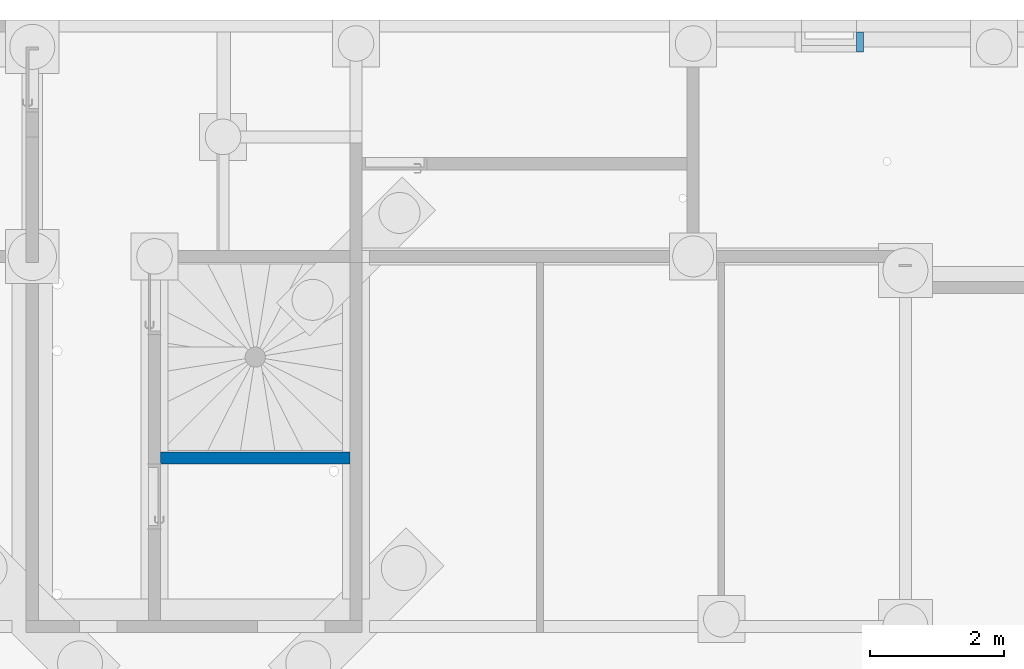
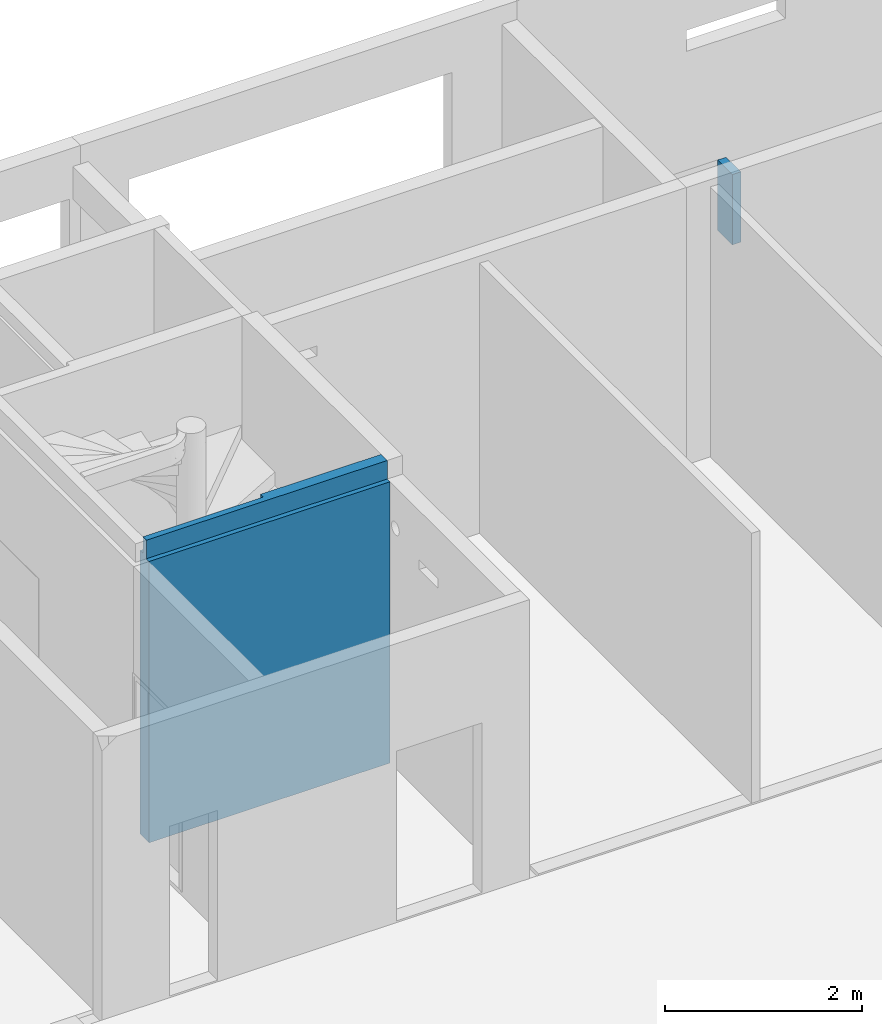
# One storey, part 8 of 29: 2 walls.
"""IFC2X3 building model written with IfcOpenShell, lengths in centimetres."""

from ifc_helpers import new_model, entity, si_unit, converted_unit, derived_unit, direction, frame, frame_2d, origin, place, context, subcontext, project, spatial, rectangle, extrude, faceted_brep, material, layer, layer_set, layer_usage, type_object, element, save


model = new_model("IFC2X3")

# Units and contexts
model_context = context("Model", 3, precision=0.001, world=origin(), true_north=direction((6.12303176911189e-17, 1.0)))
body_context = subcontext(model_context, "Body", "Model", "MODEL_VIEW")
ifc_project = project(units=[si_unit("LENGTHUNIT", "METRE", prefix="CENTI"), si_unit("AREAUNIT", "SQUARE_METRE"), si_unit("VOLUMEUNIT", "CUBIC_METRE"), converted_unit("PLANEANGLEUNIT", "DEGREE", entity("IfcRatioMeasure", 0.0174532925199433), si_unit("PLANEANGLEUNIT", "RADIAN"), dimensions=[0, 0, 0, 0, 0, 0, 0]), si_unit("MASSUNIT", "GRAM", prefix="KILO"), derived_unit("MASSDENSITYUNIT", [(si_unit("MASSUNIT", "GRAM", prefix="KILO"), 1), (si_unit("LENGTHUNIT", "METRE"), -3)]), si_unit("TIMEUNIT", "SECOND"), si_unit("FREQUENCYUNIT", "HERTZ"), si_unit("THERMODYNAMICTEMPERATUREUNIT", "DEGREE_CELSIUS"), derived_unit("THERMALTRANSMITTANCEUNIT", [(si_unit("MASSUNIT", "GRAM", prefix="KILO"), 1), (si_unit("THERMODYNAMICTEMPERATUREUNIT", "KELVIN"), -1), (si_unit("TIMEUNIT", "SECOND"), -3)]), derived_unit("VOLUMETRICFLOWRATEUNIT", [(si_unit("LENGTHUNIT", "METRE"), 3), (si_unit("TIMEUNIT", "SECOND"), -1)]), si_unit("ELECTRICCURRENTUNIT", "AMPERE"), si_unit("ELECTRICVOLTAGEUNIT", "VOLT"), si_unit("POWERUNIT", "WATT"), si_unit("FORCEUNIT", "NEWTON"), si_unit("ILLUMINANCEUNIT", "LUX"), si_unit("LUMINOUSFLUXUNIT", "LUMEN"), si_unit("LUMINOUSINTENSITYUNIT", "CANDELA"), derived_unit("USERDEFINED", [(si_unit("MASSUNIT", "GRAM", prefix="KILO"), -1), (si_unit("LENGTHUNIT", "METRE"), -2), (si_unit("TIMEUNIT", "SECOND"), 3), (si_unit("LUMINOUSFLUXUNIT", "LUMEN"), 1)]), derived_unit("LINEARVELOCITYUNIT", [(si_unit("LENGTHUNIT", "METRE"), 1), (si_unit("TIMEUNIT", "SECOND"), -1)]), si_unit("PRESSUREUNIT", "PASCAL"), derived_unit("USERDEFINED", [(si_unit("LENGTHUNIT", "METRE"), -2), (si_unit("MASSUNIT", "GRAM", prefix="KILO"), 1), (si_unit("TIMEUNIT", "SECOND"), -2)])], contexts=[model_context])

# Site, building, storey
site_placement = place(None, origin())
site = spatial("IfcSite", under=ifc_project, at=site_placement, Name="Default", CompositionType="ELEMENT")
building_placement = place(site_placement, origin())
building = spatial("IfcBuilding", under=site, at=building_placement, Name="CAGE 03", CompositionType="ELEMENT")
storey_placement = place(building_placement, frame((0.0, 0.0, -26.0)))
storey = spatial("IfcBuildingStorey", under=building, at=storey_placement, Name="+3.74", CompositionType="ELEMENT", Elevation=-26.0000000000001)

# Walls
ifc_material_1 = material(Name="Béton, C25/30")
ifc_layer_1 = layer(ifc_material_1, 18.0)
ifc_layer_set_1 = layer_set([ifc_layer_1], Name="Mur de base:Voile BA 18")
wall_type_1 = type_object("IfcWallType", Name="Mur de base:Voile BA 18", PredefinedType="STANDARD", material=ifc_layer_set_1)
wall_1_placement = place(storey_placement, frame((7031.36582014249, 4641.6606660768, -5.0)))
element("IfcWall", 1, at=wall_1_placement, inside=storey, type_object=wall_type_1, Name="Mur de base:Voile BA 18", ObjectType="Mur de base:Voile BA 18", context=body_context, shape_type="Brep", body=[
    faceted_brep([(0.0, -9.0, 0.0), (282.0, -9.0, 0.0), (282.0, -9.0, 348.0), (0.0, -9.0, 348.0), (282.0, 9.0, 0.0), (0.0, 9.0, 0.0), (0.0, 9.0, 351.0), (141.0, 9.0, 351.0), (141.0, 9.0, 371.0), (282.0, 9.0, 371.0), (0.0, -3.50000000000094, 371.0), (282.0, -3.50000000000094, 371.0), (141.0, 3.49999999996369, 371.0), (0.0, 3.5000000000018, 371.0), (0.0, -3.50000000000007, 348.0), (0.0, 3.5000000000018, 351.0), (282.0, -3.50000000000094, 348.0), (141.0, 3.49999999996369, 351.0)], [[[0, 1, 2, 3]], [[4, 5, 6, 7, 8, 9]], [[1, 0, 5, 4]], [[10, 11, 9, 8, 12, 13]], [[5, 0, 3, 14, 10, 13, 15, 6]], [[1, 4, 9, 11, 16, 2]], [[16, 14, 3, 2]], [[14, 16, 11, 10]], [[17, 7, 6, 15]], [[17, 12, 8, 7]], [[12, 17, 15, 13]]]),
])
ifc_material_2 = material(Name="Bloc béton")
ifc_layer_2 = layer(ifc_material_2, 10.0)
ifc_layer_set_2 = layer_set([ifc_layer_2], Name="Mur de base:Int. Parpaing 100 mm")
ifc_layer_usage = layer_usage(ifc_layer_set_2, "AXIS2", "NEGATIVE", 5.0)
wall_type_2 = type_object("IfcWallType", Name="Mur de base:Int. Parpaing 100 mm", PredefinedType="STANDARD", material=ifc_layer_set_2)
wall_2_placement = place(storey_placement, frame((8072.86582014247, 5275.6606660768, 0.0), z_axis=(0.0, 0.0, 1.0), x_axis=(0.0, -1.0, 0.0)))
element("IfcWallStandardCase", 2, at=wall_2_placement, inside=storey, type_object=wall_type_2, material=ifc_layer_usage, Name="Mur de base:Int. Parpaing 100 mm", ObjectType="Mur de base:Int. Parpaing 100 mm", context=body_context, shape_type="SweptSolid", body=[
    extrude(rectangle(XDim=30.0000000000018, YDim=10.0000000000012, at=frame_2d((15.0000000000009, 0.0), x_axis=(-1.0, 0.0))), origin(), (0.0, 0.0, 1.0), 87.0),
])

save(model, "model.ifc")
